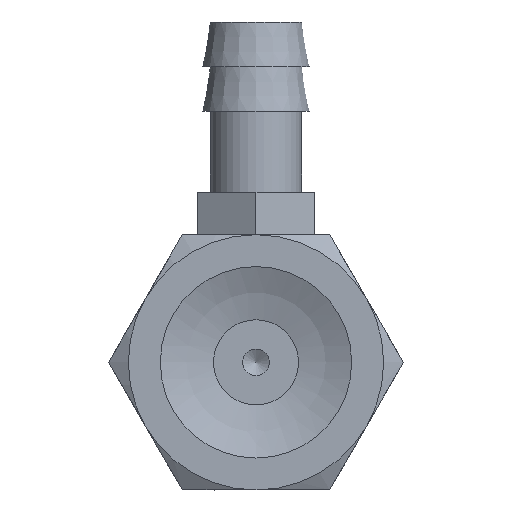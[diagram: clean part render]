
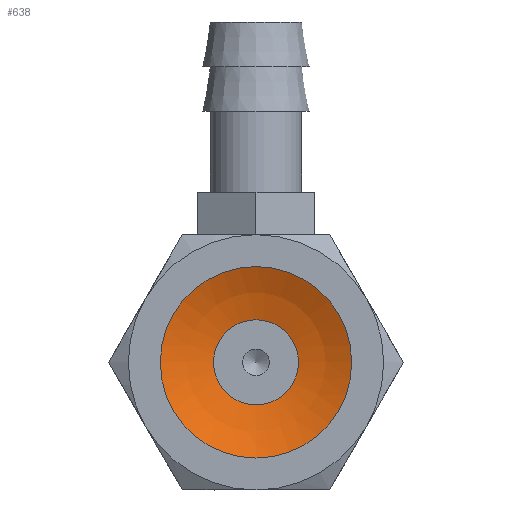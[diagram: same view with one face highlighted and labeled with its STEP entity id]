
A CAD part, front view. The second image highlights one B-rep face of the part: STEP entity #638.
In plain terms, the highlighted spherical face has radius 10.203 mm.
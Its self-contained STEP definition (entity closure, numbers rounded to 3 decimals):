
#638=ADVANCED_FACE('',(#975,#976),#977,.F.);
#975=FACE_OUTER_BOUND('',#1363,.T.);
#976=FACE_OUTER_BOUND('',#1364,.T.);
#977=SPHERICAL_SURFACE('',#1365,10.203);
#1363=EDGE_LOOP('',(#2256));
#1364=EDGE_LOOP('',(#2257));
#1365=AXIS2_PLACEMENT_3D('',#2258,#2259,#2260);
#2256=ORIENTED_EDGE('',*,*,#2647,.T.);
#2257=ORIENTED_EDGE('',*,*,#2648,.F.);
#2258=CARTESIAN_POINT('',(0.,-9.157,0.));
#2259=DIRECTION('',(0.0,-1.0,0.));
#2260=DIRECTION('',(1.0,0.0,0.0));
#2647=EDGE_CURVE('',#3060,#3060,#3061,.T.);
#2648=EDGE_CURVE('',#3062,#3062,#3063,.T.);
#3060=VERTEX_POINT('',#4082);
#3061=CIRCLE('',#4083,4.5);
#3062=VERTEX_POINT('',#4084);
#3063=CIRCLE('',#4085,2.);
#4082=CARTESIAN_POINT('',(0.0,0.,-4.5));
#4083=AXIS2_PLACEMENT_3D('',#4513,#4514,#4515);
#4084=CARTESIAN_POINT('',(0.0,0.848,-2.));
#4085=AXIS2_PLACEMENT_3D('',#4516,#4517,#4518);
#4513=CARTESIAN_POINT('',(0.0,0.,0.0));
#4514=DIRECTION('',(0.0,-1.0,0.));
#4515=DIRECTION('',(0.0,0.,-1.0));
#4516=CARTESIAN_POINT('',(0.0,0.848,0.0));
#4517=DIRECTION('',(0.0,-1.0,0.));
#4518=DIRECTION('',(0.0,0.,-1.0));
